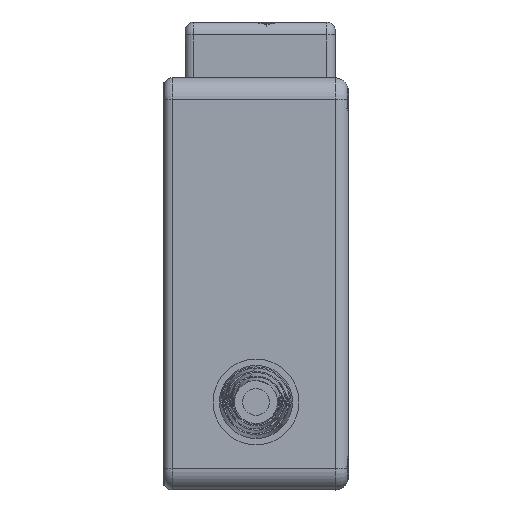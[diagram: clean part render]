
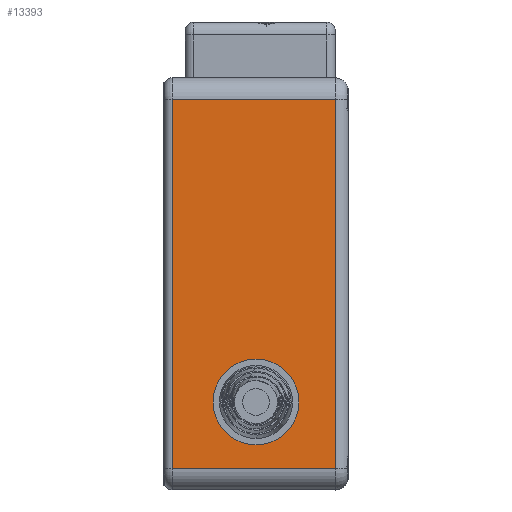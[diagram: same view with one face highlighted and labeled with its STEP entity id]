
A CAD part, left-side view. The second image highlights one B-rep face of the part: STEP entity #13393.
In plain terms, the highlighted planar face has unit normal (-1, 0, 0).
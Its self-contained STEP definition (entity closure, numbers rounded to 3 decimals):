
#313 = ORIENTED_EDGE ( 'NONE', *, *, #13199, .T. ) ;
#325 = LINE ( 'NONE', #5308, #5628 ) ;
#1175 = CARTESIAN_POINT ( 'NONE',  ( -65., 38., 43. ) ) ;
#1276 = VERTEX_POINT ( 'NONE', #14540 ) ;
#1477 = CARTESIAN_POINT ( 'NONE',  ( -65., 18.5, -17.5 ) ) ;
#2110 = DIRECTION ( 'NONE',  ( 0., -1., 0. ) ) ;
#2340 = CARTESIAN_POINT ( 'NONE',  ( -65., 40., 48. ) ) ;
#2587 = AXIS2_PLACEMENT_3D ( 'NONE', #11818, #15503, #5490 ) ;
#2720 = EDGE_CURVE ( 'NONE', #11402, #1276, #13896, .T. ) ;
#2797 = DIRECTION ( 'NONE',  ( 0., 1., 0. ) ) ;
#3000 = LINE ( 'NONE', #12869, #12792 ) ;
#3087 = DIRECTION ( 'NONE',  ( 0., 0., -1. ) ) ;
#3726 = ORIENTED_EDGE ( 'NONE', *, *, #5489, .T. ) ;
#4056 = ORIENTED_EDGE ( 'NONE', *, *, #7322, .T. ) ;
#4610 = VERTEX_POINT ( 'NONE', #6625 ) ;
#4639 = VECTOR ( 'NONE', #2110, 1000. ) ;
#5308 = CARTESIAN_POINT ( 'NONE',  ( -65., 40., 43. ) ) ;
#5489 = EDGE_CURVE ( 'NONE', #11174, #4610, #3000, .T. ) ;
#5490 = DIRECTION ( 'NONE',  ( 0., 0., -1. ) ) ;
#5611 = ORIENTED_EDGE ( 'NONE', *, *, #2720, .T. ) ;
#5628 = VECTOR ( 'NONE', #2797, 1000. ) ;
#5925 = AXIS2_PLACEMENT_3D ( 'NONE', #2340, #7247, #14765 ) ;
#6118 = PLANE ( 'NONE',  #5925 ) ;
#6625 = CARTESIAN_POINT ( 'NONE',  ( -65., 0., 43. ) ) ;
#6640 = CARTESIAN_POINT ( 'NONE',  ( -65., 0., -43. ) ) ;
#7247 = DIRECTION ( 'NONE',  ( 1., 0., 0. ) ) ;
#7322 = EDGE_CURVE ( 'NONE', #4610, #11402, #325, .T. ) ;
#7898 = DIRECTION ( 'NONE',  ( 0., 0., 1. ) ) ;
#8797 = EDGE_LOOP ( 'NONE', ( #13310, #9392 ) ) ;
#8841 = CARTESIAN_POINT ( 'NONE',  ( -65., 18.5, -37.5 ) ) ;
#9392 = ORIENTED_EDGE ( 'NONE', *, *, #14294, .F. ) ;
#9685 = EDGE_LOOP ( 'NONE', ( #5611, #313, #3726, #4056 ) ) ;
#9942 = VECTOR ( 'NONE', #12523, 1000. ) ;
#10569 = CARTESIAN_POINT ( 'NONE',  ( -65., 18.5, -27.5 ) ) ;
#11174 = VERTEX_POINT ( 'NONE', #6640 ) ;
#11402 = VERTEX_POINT ( 'NONE', #1175 ) ;
#11413 = CARTESIAN_POINT ( 'NONE',  ( -65., 38., 48. ) ) ;
#11584 = AXIS2_PLACEMENT_3D ( 'NONE', #10569, #14074, #3087 ) ;
#11818 = CARTESIAN_POINT ( 'NONE',  ( -65., 18.5, -27.5 ) ) ;
#12048 = FACE_BOUND ( 'NONE', #8797, .T. ) ;
#12523 = DIRECTION ( 'NONE',  ( 0., 0., -1. ) ) ;
#12792 = VECTOR ( 'NONE', #7898, 1000. ) ;
#12869 = CARTESIAN_POINT ( 'NONE',  ( -65., 0., 48. ) ) ;
#13094 = CARTESIAN_POINT ( 'NONE',  ( -65., 40., -43. ) ) ;
#13098 = CIRCLE ( 'NONE', #2587, 10. ) ;
#13157 = EDGE_CURVE ( 'NONE', #13504, #14580, #13098, .T. ) ;
#13199 = EDGE_CURVE ( 'NONE', #1276, #11174, #15266, .T. ) ;
#13310 = ORIENTED_EDGE ( 'NONE', *, *, #13157, .F. ) ;
#13334 = FACE_OUTER_BOUND ( 'NONE', #9685, .T. ) ;
#13393 = ADVANCED_FACE ( 'NONE', ( #12048, #13334 ), #6118, .F. ) ;
#13504 = VERTEX_POINT ( 'NONE', #8841 ) ;
#13896 = LINE ( 'NONE', #11413, #9942 ) ;
#14074 = DIRECTION ( 'NONE',  ( -1., 0., 0. ) ) ;
#14294 = EDGE_CURVE ( 'NONE', #14580, #13504, #15679, .T. ) ;
#14540 = CARTESIAN_POINT ( 'NONE',  ( -65., 38., -43. ) ) ;
#14580 = VERTEX_POINT ( 'NONE', #1477 ) ;
#14765 = DIRECTION ( 'NONE',  ( 0., 0., -1. ) ) ;
#15266 = LINE ( 'NONE', #13094, #4639 ) ;
#15503 = DIRECTION ( 'NONE',  ( -1., 0., 0. ) ) ;
#15679 = CIRCLE ( 'NONE', #11584, 10. ) ;
